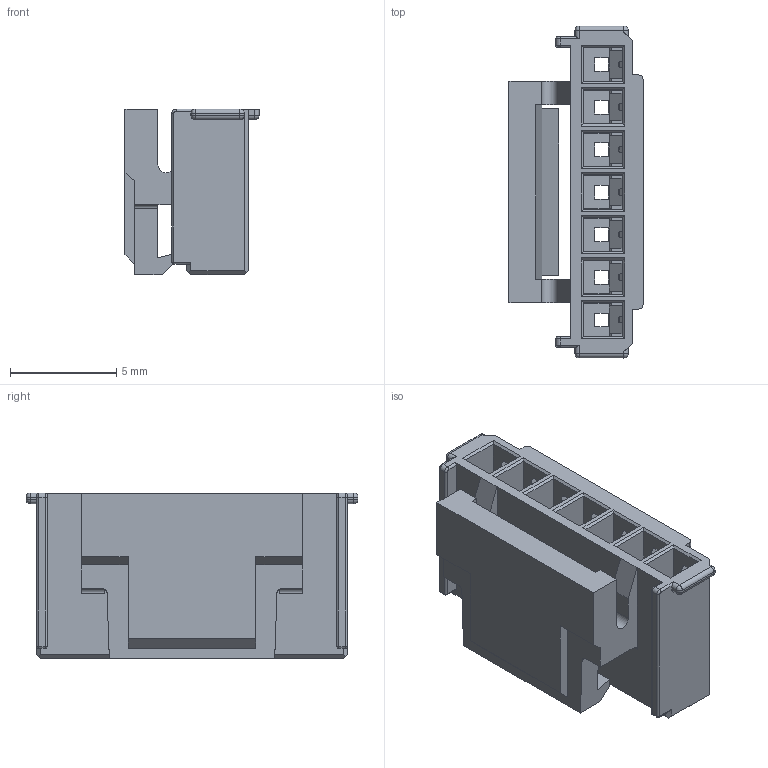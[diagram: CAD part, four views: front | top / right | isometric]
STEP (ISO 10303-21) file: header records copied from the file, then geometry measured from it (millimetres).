
FILE_DESCRIPTION((''),'2;1');
FILE_NAME('S-51206-005HXXX-001','2017-05-23T',('d25011'),(''),'CREO PARAMETRIC BY PTC INC, 2014500','CREO PARAMETRIC BY PTC INC, 2014500','');
FILE_SCHEMA(('CONFIG_CONTROL_DESIGN'));
Length unit declared in the file: millimetre
Products named in the file (1): S-51206-005HXXX-001
Bounding box: 6.3 x 15.6 x 7.8 mm (x, y, z)
Volume: 300 mm3; surface area: 985.5 mm2
Topology: 1 solids, 1 shells, 450 faces, 1189 edges, 732 vertices
Faces by surface type: plane 354, cylinder 78, sphere 14, bspline 4
Entity records: 13647 total; most frequent: CARTESIAN_POINT 2599, ORIENTED_EDGE 2350, DIRECTION 2131, EDGE_CURVE 1175, VECTOR 1015, LINE 1015, VERTEX_POINT 732, AXIS2_PLACEMENT_3D 558
